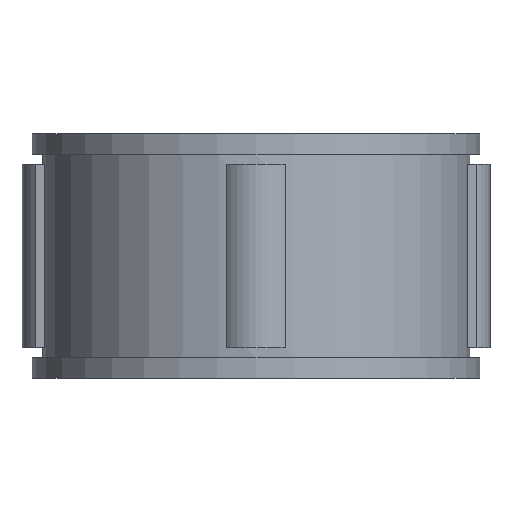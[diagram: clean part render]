
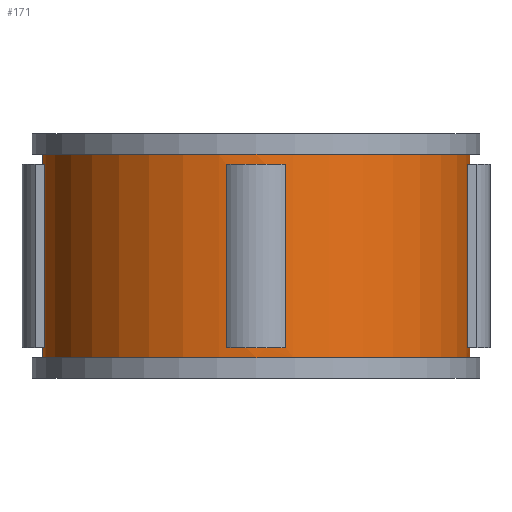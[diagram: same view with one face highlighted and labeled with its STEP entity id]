
A CAD part, front view. The second image highlights one B-rep face of the part: STEP entity #171.
In plain terms, the highlighted cylindrical face has radius 10.5 mm (diameter 21 mm), a full revolution.
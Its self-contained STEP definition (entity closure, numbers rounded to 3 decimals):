
#171=ADVANCED_FACE('',(#359,#360,#361,#362,#363,#364),#219,.T.);
#219=CYLINDRICAL_SURFACE('',#882,10.5);
#231=LINE('',#1207,#295);
#232=LINE('',#1212,#296);
#233=LINE('',#1215,#297);
#234=LINE('',#1220,#298);
#235=LINE('',#1223,#299);
#236=LINE('',#1228,#300);
#237=LINE('',#1234,#301);
#238=LINE('',#1238,#302);
#295=VECTOR('',#966,1.);
#296=VECTOR('',#969,1.);
#297=VECTOR('',#972,1.);
#298=VECTOR('',#975,1.);
#299=VECTOR('',#978,1.);
#300=VECTOR('',#981,1.);
#301=VECTOR('',#986,1.);
#302=VECTOR('',#989,1.);
#359=FACE_BOUND('',#383,.T.);
#360=FACE_BOUND('',#384,.T.);
#361=FACE_BOUND('',#385,.T.);
#362=FACE_BOUND('',#386,.T.);
#363=FACE_BOUND('',#387,.T.);
#364=FACE_BOUND('',#388,.T.);
#383=EDGE_LOOP('',(#447));
#384=EDGE_LOOP('',(#448));
#385=EDGE_LOOP('',(#449,#450,#451,#452));
#386=EDGE_LOOP('',(#453,#454,#455,#456));
#387=EDGE_LOOP('',(#457,#458,#459,#460));
#388=EDGE_LOOP('',(#461,#462,#463,#464));
#447=ORIENTED_EDGE('',*,*,#727,.F.);
#448=ORIENTED_EDGE('',*,*,#728,.T.);
#449=ORIENTED_EDGE('',*,*,#729,.F.);
#450=ORIENTED_EDGE('',*,*,#730,.T.);
#451=ORIENTED_EDGE('',*,*,#731,.F.);
#452=ORIENTED_EDGE('',*,*,#732,.F.);
#453=ORIENTED_EDGE('',*,*,#733,.F.);
#454=ORIENTED_EDGE('',*,*,#734,.T.);
#455=ORIENTED_EDGE('',*,*,#735,.F.);
#456=ORIENTED_EDGE('',*,*,#736,.F.);
#457=ORIENTED_EDGE('',*,*,#737,.F.);
#458=ORIENTED_EDGE('',*,*,#738,.T.);
#459=ORIENTED_EDGE('',*,*,#739,.F.);
#460=ORIENTED_EDGE('',*,*,#740,.F.);
#461=ORIENTED_EDGE('',*,*,#741,.F.);
#462=ORIENTED_EDGE('',*,*,#742,.T.);
#463=ORIENTED_EDGE('',*,*,#743,.T.);
#464=ORIENTED_EDGE('',*,*,#744,.T.);
#655=VERTEX_POINT('',#1204);
#656=VERTEX_POINT('',#1206);
#657=VERTEX_POINT('',#1208);
#658=VERTEX_POINT('',#1209);
#659=VERTEX_POINT('',#1211);
#660=VERTEX_POINT('',#1213);
#661=VERTEX_POINT('',#1216);
#662=VERTEX_POINT('',#1217);
#663=VERTEX_POINT('',#1219);
#664=VERTEX_POINT('',#1221);
#665=VERTEX_POINT('',#1224);
#666=VERTEX_POINT('',#1225);
#667=VERTEX_POINT('',#1227);
#668=VERTEX_POINT('',#1229);
#669=VERTEX_POINT('',#1232);
#670=VERTEX_POINT('',#1233);
#671=VERTEX_POINT('',#1235);
#672=VERTEX_POINT('',#1237);
#727=EDGE_CURVE('',#655,#655,#831,.T.);
#728=EDGE_CURVE('',#656,#656,#832,.T.);
#729=EDGE_CURVE('',#657,#658,#231,.T.);
#730=EDGE_CURVE('',#657,#659,#833,.T.);
#731=EDGE_CURVE('',#660,#659,#232,.T.);
#732=EDGE_CURVE('',#658,#660,#834,.T.);
#733=EDGE_CURVE('',#661,#662,#233,.T.);
#734=EDGE_CURVE('',#661,#663,#835,.T.);
#735=EDGE_CURVE('',#664,#663,#234,.T.);
#736=EDGE_CURVE('',#662,#664,#836,.T.);
#737=EDGE_CURVE('',#665,#666,#235,.T.);
#738=EDGE_CURVE('',#665,#667,#837,.T.);
#739=EDGE_CURVE('',#668,#667,#236,.T.);
#740=EDGE_CURVE('',#666,#668,#838,.T.);
#741=EDGE_CURVE('',#669,#670,#839,.T.);
#742=EDGE_CURVE('',#669,#671,#237,.T.);
#743=EDGE_CURVE('',#671,#672,#840,.T.);
#744=EDGE_CURVE('',#672,#670,#238,.T.);
#831=CIRCLE('',#872,10.5);
#832=CIRCLE('',#873,10.5);
#833=CIRCLE('',#874,10.5);
#834=CIRCLE('',#875,10.5);
#835=CIRCLE('',#876,10.5);
#836=CIRCLE('',#877,10.5);
#837=CIRCLE('',#878,10.5);
#838=CIRCLE('',#879,10.5);
#839=CIRCLE('',#880,10.5);
#840=CIRCLE('',#881,10.5);
#872=AXIS2_PLACEMENT_3D('',#1203,#962,#963);
#873=AXIS2_PLACEMENT_3D('',#1205,#964,#965);
#874=AXIS2_PLACEMENT_3D('',#1210,#967,#968);
#875=AXIS2_PLACEMENT_3D('',#1214,#970,#971);
#876=AXIS2_PLACEMENT_3D('',#1218,#973,#974);
#877=AXIS2_PLACEMENT_3D('',#1222,#976,#977);
#878=AXIS2_PLACEMENT_3D('',#1226,#979,#980);
#879=AXIS2_PLACEMENT_3D('',#1230,#982,#983);
#880=AXIS2_PLACEMENT_3D('',#1231,#984,#985);
#881=AXIS2_PLACEMENT_3D('',#1236,#987,#988);
#882=AXIS2_PLACEMENT_3D('',#1239,#990,#991);
#962=DIRECTION('',(0.,0.,1.));
#963=DIRECTION('',(1.,0.,0.));
#964=DIRECTION('',(0.,0.,1.));
#965=DIRECTION('',(1.,0.,0.));
#966=DIRECTION('',(0.,0.,-1.));
#967=DIRECTION('',(0.,0.,1.));
#968=DIRECTION('',(1.,0.,0.));
#969=DIRECTION('',(0.,0.,1.));
#970=DIRECTION('',(0.,0.,1.));
#971=DIRECTION('',(1.,0.,0.));
#972=DIRECTION('',(0.,0.,-1.));
#973=DIRECTION('',(0.,0.,1.));
#974=DIRECTION('',(1.,0.,0.));
#975=DIRECTION('',(0.,0.,1.));
#976=DIRECTION('',(0.,0.,1.));
#977=DIRECTION('',(1.,0.,0.));
#978=DIRECTION('',(0.,0.,-1.));
#979=DIRECTION('',(0.,0.,1.));
#980=DIRECTION('',(1.,0.,0.));
#981=DIRECTION('',(0.,0.,1.));
#982=DIRECTION('',(0.,0.,1.));
#983=DIRECTION('',(1.,0.,0.));
#984=DIRECTION('',(0.,0.,-1.));
#985=DIRECTION('',(-1.,0.,0.));
#986=DIRECTION('',(0.,0.,-1.));
#987=DIRECTION('',(0.,0.,-1.));
#988=DIRECTION('',(-1.,0.,0.));
#989=DIRECTION('',(0.,0.,1.));
#990=DIRECTION('',(0.,0.,-1.));
#991=DIRECTION('',(-1.,0.,0.));
#1203=CARTESIAN_POINT('',(0.,0.,11.));
#1204=CARTESIAN_POINT('',(10.5,0.,11.));
#1205=CARTESIAN_POINT('',(0.,0.,1.));
#1206=CARTESIAN_POINT('',(10.5,0.,1.));
#1207=CARTESIAN_POINT('',(10.396,-1.471,12.));
#1208=CARTESIAN_POINT('',(10.396,-1.471,10.5));
#1209=CARTESIAN_POINT('',(10.396,-1.471,1.5));
#1210=CARTESIAN_POINT('',(0.,0.,10.5));
#1211=CARTESIAN_POINT('',(10.396,1.471,10.5));
#1212=CARTESIAN_POINT('',(10.396,1.471,12.));
#1213=CARTESIAN_POINT('',(10.396,1.471,1.5));
#1214=CARTESIAN_POINT('',(0.,0.,1.5));
#1215=CARTESIAN_POINT('',(1.471,10.396,12.));
#1216=CARTESIAN_POINT('',(1.471,10.396,10.5));
#1217=CARTESIAN_POINT('',(1.471,10.396,1.5));
#1218=CARTESIAN_POINT('',(0.,0.,10.5));
#1219=CARTESIAN_POINT('',(-1.471,10.396,10.5));
#1220=CARTESIAN_POINT('',(-1.471,10.396,12.));
#1221=CARTESIAN_POINT('',(-1.471,10.396,1.5));
#1222=CARTESIAN_POINT('',(0.,0.,1.5));
#1223=CARTESIAN_POINT('',(-10.396,1.471,12.));
#1224=CARTESIAN_POINT('',(-10.396,1.471,10.5));
#1225=CARTESIAN_POINT('',(-10.396,1.471,1.5));
#1226=CARTESIAN_POINT('',(0.,0.,10.5));
#1227=CARTESIAN_POINT('',(-10.396,-1.471,10.5));
#1228=CARTESIAN_POINT('',(-10.396,-1.471,12.));
#1229=CARTESIAN_POINT('',(-10.396,-1.471,1.5));
#1230=CARTESIAN_POINT('',(0.,0.,1.5));
#1231=CARTESIAN_POINT('',(0.,0.,10.5));
#1232=CARTESIAN_POINT('',(1.471,-10.396,10.5));
#1233=CARTESIAN_POINT('',(-1.471,-10.396,10.5));
#1234=CARTESIAN_POINT('',(1.471,-10.396,12.));
#1235=CARTESIAN_POINT('',(1.471,-10.396,1.5));
#1236=CARTESIAN_POINT('',(0.,0.,1.5));
#1237=CARTESIAN_POINT('',(-1.471,-10.396,1.5));
#1238=CARTESIAN_POINT('',(-1.471,-10.396,12.));
#1239=CARTESIAN_POINT('',(0.,0.,12.));
